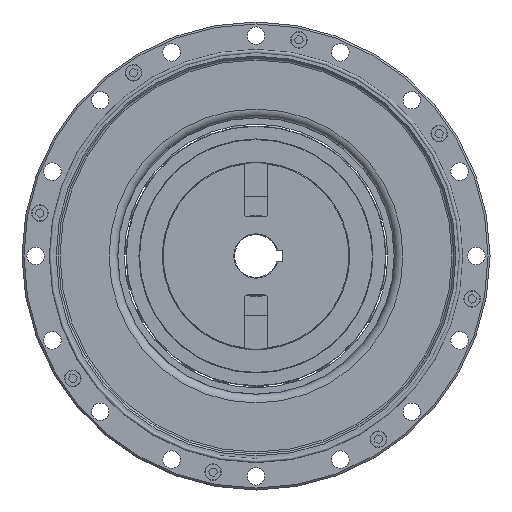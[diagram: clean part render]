
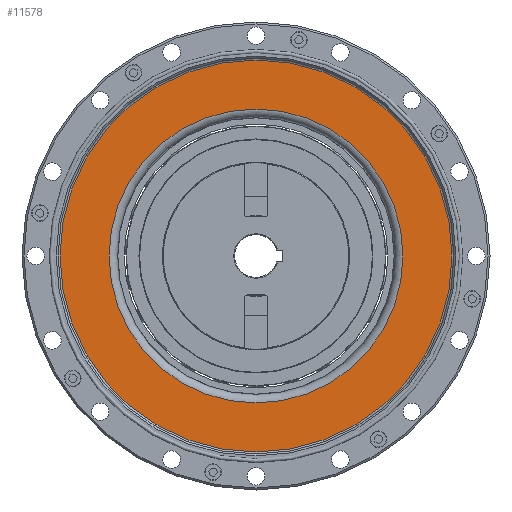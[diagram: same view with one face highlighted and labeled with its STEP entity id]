
A CAD part, left-side view. The second image highlights one B-rep face of the part: STEP entity #11578.
In plain terms, the highlighted planar face has unit normal (-1, 0, 0).
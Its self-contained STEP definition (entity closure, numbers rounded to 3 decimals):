
#4541 = CARTESIAN_POINT ( 'NONE',  ( 4.527, 0., -75.365 ) ) ;
#6634 = CARTESIAN_POINT ( 'NONE',  ( 4.527, 0., 100.5 ) ) ;
#8553 = CARTESIAN_POINT ( 'NONE',  ( 4.527, 0., 0. ) ) ;
#9568 = DIRECTION ( 'NONE',  ( 1., 0., 0. ) ) ;
#10131 = ORIENTED_EDGE ( 'NONE', *, *, #33238, .T. ) ;
#11386 = DIRECTION ( 'NONE',  ( 0., 0., 1. ) ) ;
#11578 = ADVANCED_FACE ( 'NONE', ( #15407, #18549 ), #14092, .T. ) ;
#12658 = ORIENTED_EDGE ( 'NONE', *, *, #27963, .T. ) ;
#13282 = DIRECTION ( 'NONE',  ( 0., 0., 1. ) ) ;
#13392 = DIRECTION ( 'NONE',  ( -1., 0., 0. ) ) ;
#13421 = CARTESIAN_POINT ( 'NONE',  ( 4.527, 101.5, 0. ) ) ;
#14092 = PLANE ( 'NONE',  #34601 ) ;
#14288 = VERTEX_POINT ( 'NONE', #6634 ) ;
#15407 = FACE_OUTER_BOUND ( 'NONE', #34463, .T. ) ;
#17810 = AXIS2_PLACEMENT_3D ( 'NONE', #8553, #27454, #11386 ) ;
#18549 = FACE_BOUND ( 'NONE', #34567, .T. ) ;
#21109 = AXIS2_PLACEMENT_3D ( 'NONE', #25746, #9568, #28363 ) ;
#25474 = CIRCLE ( 'NONE', #21109, 75.365 ) ;
#25746 = CARTESIAN_POINT ( 'NONE',  ( 4.527, 0., 0. ) ) ;
#27454 = DIRECTION ( 'NONE',  ( -1., 0., 0. ) ) ;
#27963 = EDGE_CURVE ( 'NONE', #14288, #14288, #27998, .T. ) ;
#27998 = CIRCLE ( 'NONE', #17810, 100.5 ) ;
#28363 = DIRECTION ( 'NONE',  ( 0., 0., -1. ) ) ;
#29193 = VERTEX_POINT ( 'NONE', #4541 ) ;
#33238 = EDGE_CURVE ( 'NONE', #29193, #29193, #25474, .T. ) ;
#34463 = EDGE_LOOP ( 'NONE', ( #12658 ) ) ;
#34567 = EDGE_LOOP ( 'NONE', ( #10131 ) ) ;
#34601 = AXIS2_PLACEMENT_3D ( 'NONE', #13421, #13392, #13282 ) ;
